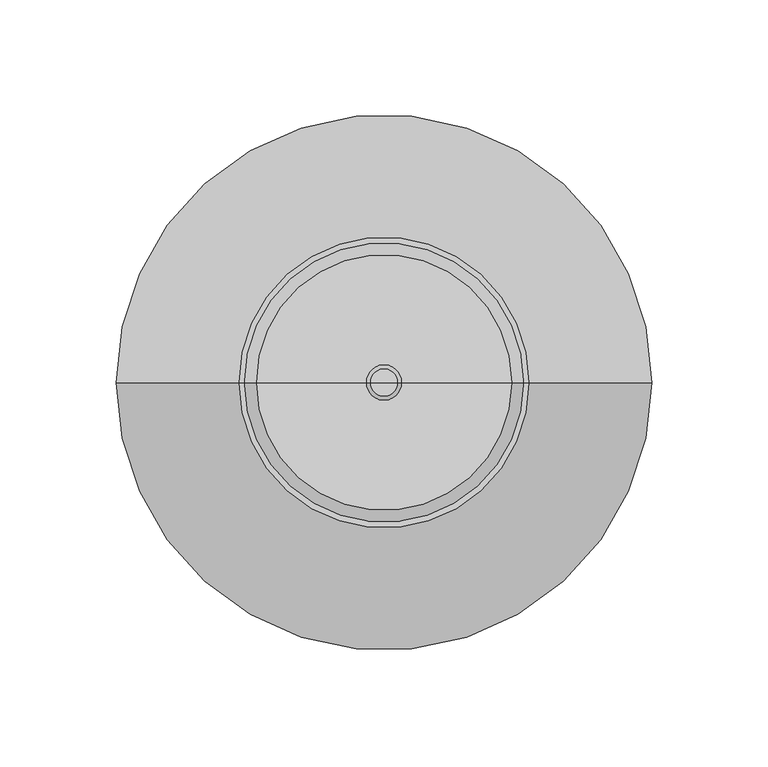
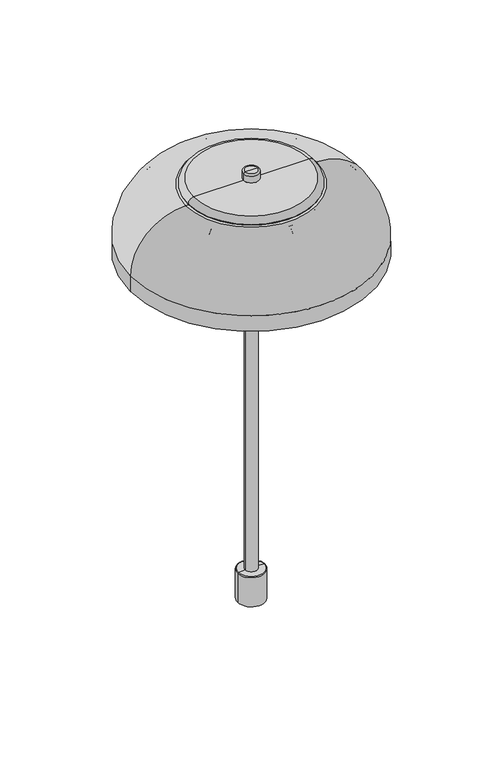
"""IFC4 building model written with IfcOpenShell, lengths in millimetres: light fixture geometry, Nuura - Blossi - Table In-Set : Nuura - Blossi - Table In-Set."""

from ifc_helpers import new_model, si_unit, point, frame, origin, place, context, project, spatial, polyline, circle_curve, ellipse_curve, trimmed, source, transform, mapped, element, save
from ifc_brep_helpers import plane_surface, cylinder_surface, revolved_surface, advanced_brep


def light_fixture_ab9418f2(model_context):
    return source(origin(), model_context, "Body", "AdvancedBrep", [
        advanced_brep(
        [(-63.0, 0.0, 412.0), (63.0, 0.0, 412.0), (0.0, 0.0, 412.0), (-111.0, 0.0, 364.0), (111.0, 0.0, 364.0), (-111.0, 0.0, 348.3), (111.0, 0.0, 348.3), (-115.0, 0.0, 348.3), (115.0, 0.0, 348.3), (-115.0, 0.0, 363.5), (115.0, 0.0, 363.5), (-62.5, 0.0, 416.0), (62.5, 0.0, 416.0), (0.0, 0.0, 416.0)],
        [
            (0, 1, circle_curve(frame((0.0, 0.0, 412.0), z_axis=(0.0, 0.0, -1.0), x_axis=(1.0, 0.0, 0.0)), 63.0)),
            (1, 2),
            (2, 0),
            (1, 0, circle_curve(frame((0.0, 0.0, 412.0), z_axis=(0.0, 0.0, -1.0), x_axis=(1.0, 0.0, 0.0)), 63.0)),
            (3, 4, circle_curve(frame((0.0, 0.0, 364.0), z_axis=(0.0, 0.0, -1.0), x_axis=(1.0, 0.0, 0.0)), 111.0)),
            (4, 1, circle_curve(frame((63.0, 0.0, 364.0), z_axis=(0.0, -1.0, 0.0), x_axis=(1.0, 0.0, 0.0)), 48.0)),
            (0, 3, circle_curve(frame((-63.0, 0.0, 364.0), z_axis=(0.0, -1.0, 0.0), x_axis=(-1.0, 0.0, 0.0)), 48.0)),
            (4, 3, circle_curve(frame((0.0, 0.0, 364.0), z_axis=(0.0, 0.0, -1.0), x_axis=(1.0, 0.0, 0.0)), 111.0)),
            (5, 6, circle_curve(frame((0.0, 0.0, 348.3), z_axis=(0.0, 0.0, -1.0), x_axis=(1.0, 0.0, 0.0)), 111.0)),
            (6, 4),
            (3, 5),
            (6, 5, circle_curve(frame((0.0, 0.0, 348.3), z_axis=(0.0, 0.0, -1.0), x_axis=(1.0, 0.0, 0.0)), 111.0)),
            (7, 8, circle_curve(frame((0.0, 0.0, 348.3), z_axis=(0.0, 0.0, -1.0), x_axis=(1.0, 0.0, 0.0)), 115.0)),
            (8, 6),
            (5, 7),
            (8, 7, circle_curve(frame((0.0, 0.0, 348.3), z_axis=(0.0, 0.0, -1.0), x_axis=(1.0, 0.0, 0.0)), 115.0)),
            (9, 10, circle_curve(frame((0.0, 0.0, 363.5), z_axis=(0.0, 0.0, -1.0), x_axis=(1.0, 0.0, 0.0)), 115.0)),
            (10, 8),
            (7, 9),
            (10, 9, circle_curve(frame((0.0, 0.0, 363.5), z_axis=(0.0, 0.0, -1.0), x_axis=(1.0, 0.0, 0.0)), 115.0)),
            (11, 12, circle_curve(frame((0.0, 0.0, 416.0), z_axis=(0.0, 0.0, -1.0), x_axis=(1.0, 0.0, 0.0)), 62.5)),
            (12, 10, circle_curve(frame((62.5, 0.0, 363.5), z_axis=(0.0, 1.0, 0.0), x_axis=(1.0, 0.0, 0.0)), 52.5)),
            (9, 11, circle_curve(frame((-62.5, 0.0, 363.5), z_axis=(0.0, 1.0, 0.0), x_axis=(-1.0, 0.0, 0.0)), 52.5)),
            (12, 11, circle_curve(frame((0.0, 0.0, 416.0), z_axis=(0.0, 0.0, -1.0), x_axis=(1.0, 0.0, 0.0)), 62.5)),
            (13, 12),
            (11, 13),
        ],
        [
            plane_surface(frame((0.0, 0.0, 412.0), z_axis=(0.0, 0.0, -1.0), x_axis=(1.0, 0.0, 0.0))),
            revolved_surface(trimmed(ellipse_curve(frame((63.0, 0.0, 364.0), z_axis=(0.0, 1.0, 0.0), x_axis=(1.0, 0.0, 0.0)), 48.0, 48.0), [point((63.0, 0.0, 412.0))], [point((111.0, 0.0, 364.0))], True, "CARTESIAN"), (0.0, 0.0, 462.3834276), (0.0, 0.0, 1.0)),
            revolved_surface(polyline([(111.0, 0.0, 364.0), (111.0, 0.0, 348.3)]), (0.0, 0.0, 462.3834276), (0.0, 0.0, 1.0)),
            plane_surface(frame((0.0, 0.0, 348.3), z_axis=(0.0, 0.0, -1.0), x_axis=(1.0, 0.0, 0.0))),
            cylinder_surface(frame((0.0, 0.0, 462.3834276), z_axis=(0.0, 0.0, 1.0), x_axis=(1.0, 0.0, 0.0)), 115.0),
            revolved_surface(trimmed(ellipse_curve(frame((62.5, 0.0, 363.5), z_axis=(0.0, -1.0, 0.0), x_axis=(1.0, 0.0, 0.0)), 52.5, 52.5), [point((115.0, 0.0, 363.5))], [point((62.5, 0.0, 416.0))], True, "CARTESIAN"), (0.0, 0.0, 462.3834276), (0.0, 0.0, 1.0)),
            plane_surface(frame((0.0, 0.0, 416.0), z_axis=(0.0, 0.0, 1.0), x_axis=(1.0, 0.0, 0.0))),
        ],
        [
            (0, [[1, 2, 3]]),
            (0, [[4, -3, -2]]),
            (1, [[5, 6, -1, 7]]),
            (1, [[8, -7, -4, -6]]),
            (2, [[9, 10, -5, 11]]),
            (2, [[12, -11, -8, -10]]),
            (3, [[13, 14, -9, 15]]),
            (3, [[16, -15, -12, -14]]),
            (4, [[17, 18, -13, 19]]),
            (4, [[20, -19, -16, -18]]),
            (5, [[21, 22, -17, 23]]),
            (5, [[24, -23, -20, -22]]),
            (6, [[25, -21, 26]]),
            (6, [[-26, -24, -25]]),
        ],
    ),
        advanced_brep(
        [(-5.85, 0.0, 406.0), (5.85, 0.0, 406.0), (5.85, 0.0, 366.0), (-5.85, 0.0, 366.0), (0.0, 0.0, 406.0), (0.0, 0.0, 366.0)],
        [
            (0, 1, circle_curve(frame((0.0, 0.0, 406.0), z_axis=(0.0, 0.0, -1.0), x_axis=(1.0, 0.0, 0.0)), 5.85)),
            (1, 2),
            (2, 3, circle_curve(frame((0.0, 0.0, 366.0), z_axis=(0.0, 0.0, 1.0), x_axis=(1.0, 0.0, 0.0)), 5.85)),
            (3, 0),
            (1, 0, circle_curve(frame((0.0, 0.0, 406.0), z_axis=(0.0, 0.0, -1.0), x_axis=(1.0, 0.0, 0.0)), 5.85)),
            (3, 2, circle_curve(frame((0.0, 0.0, 366.0), z_axis=(0.0, 0.0, 1.0), x_axis=(1.0, 0.0, 0.0)), 5.85)),
            (4, 1),
            (0, 4),
            (2, 5),
            (5, 3),
        ],
        [
            cylinder_surface(frame((0.0, 0.0, -478.1232635), z_axis=(0.0, 0.0, 1.0), x_axis=(1.0, 0.0, 0.0)), 5.85),
            plane_surface(frame((0.0, 0.0, 406.0), z_axis=(0.0, 0.0, 1.0), x_axis=(1.0, 0.0, 0.0))),
            plane_surface(frame((0.0, 0.0, 366.0), z_axis=(0.0, 0.0, -1.0), x_axis=(1.0, 0.0, 0.0))),
        ],
        [
            (0, [[1, 2, 3, 4]]),
            (0, [[5, -4, 6, -2]]),
            (1, [[7, -1, 8]]),
            (1, [[-8, -5, -7]]),
            (2, [[-3, 9, 10]]),
            (2, [[-6, -10, -9]]),
        ],
    ),
        advanced_brep(
        [(-13.0, 0.0, 0.0), (13.0, 0.0, 0.0), (0.0, 0.0, 0.0), (-13.0, 0.0, 29.0), (13.0, 0.0, 29.0), (-5.85, 0.0, 30.0), (5.85, 0.0, 30.0), (12.0, 0.0, 30.0), (-12.0, 0.0, 30.0), (-5.85, 0.0, 357.3), (5.85, 0.0, 357.3), (-32.0, 0.0, 357.3), (32.0, 0.0, 357.3), (-35.0, 0.0, 360.3), (35.0, 0.0, 360.3), (-35.0, 0.0, 362.3), (35.0, 0.0, 362.3), (-32.0, 0.0, 365.3), (32.0, 0.0, 365.3), (0.0, 0.0, 365.3)],
        [
            (0, 1, circle_curve(frame((0.0, 0.0, 0.0), z_axis=(0.0, 0.0, -1.0), x_axis=(1.0, 0.0, 0.0)), 13.0)),
            (1, 2),
            (2, 0),
            (1, 0, circle_curve(frame((0.0, 0.0, 0.0), z_axis=(0.0, 0.0, -1.0), x_axis=(1.0, 0.0, 0.0)), 13.0)),
            (3, 4, circle_curve(frame((0.0, 0.0, 29.0), z_axis=(0.0, 0.0, -1.0), x_axis=(1.0, 0.0, 0.0)), 13.0)),
            (4, 1),
            (0, 3),
            (4, 3, circle_curve(frame((0.0, 0.0, 29.0), z_axis=(0.0, 0.0, -1.0), x_axis=(1.0, 0.0, 0.0)), 13.0)),
            (5, 6, circle_curve(frame((0.0, 0.0, 30.0), z_axis=(0.0, 0.0, -1.0), x_axis=(1.0, 0.0, 0.0)), 5.85)),
            (6, 7),
            (7, 8, circle_curve(frame((0.0, 0.0, 30.0), z_axis=(0.0, 0.0, 1.0), x_axis=(1.0, 0.0, 0.0)), 12.0)),
            (8, 5),
            (6, 5, circle_curve(frame((0.0, 0.0, 30.0), z_axis=(0.0, 0.0, -1.0), x_axis=(1.0, 0.0, 0.0)), 5.85)),
            (8, 7, circle_curve(frame((0.0, 0.0, 30.0), z_axis=(0.0, 0.0, 1.0), x_axis=(1.0, 0.0, 0.0)), 12.0)),
            (9, 10, circle_curve(frame((0.0, 0.0, 357.3), z_axis=(0.0, 0.0, -1.0), x_axis=(1.0, 0.0, 0.0)), 5.85)),
            (10, 6),
            (5, 9),
            (10, 9, circle_curve(frame((0.0, 0.0, 357.3), z_axis=(0.0, 0.0, -1.0), x_axis=(1.0, 0.0, 0.0)), 5.85)),
            (11, 12, circle_curve(frame((0.0, 0.0, 357.3), z_axis=(0.0, 0.0, -1.0), x_axis=(1.0, 0.0, 0.0)), 32.0)),
            (12, 10),
            (9, 11),
            (12, 11, circle_curve(frame((0.0, 0.0, 357.3), z_axis=(0.0, 0.0, -1.0), x_axis=(1.0, 0.0, 0.0)), 32.0)),
            (13, 14, circle_curve(frame((0.0, 0.0, 360.3), z_axis=(0.0, 0.0, -1.0), x_axis=(1.0, 0.0, 0.0)), 35.0)),
            (14, 12, circle_curve(frame((32.0, 0.0, 360.3), z_axis=(0.0, 1.0, 0.0), x_axis=(1.0, 0.0, 0.0)), 3.0)),
            (11, 13, circle_curve(frame((-32.0, 0.0, 360.3), z_axis=(0.0, 1.0, 0.0), x_axis=(-1.0, 0.0, 0.0)), 3.0)),
            (14, 13, circle_curve(frame((0.0, 0.0, 360.3), z_axis=(0.0, 0.0, -1.0), x_axis=(1.0, 0.0, 0.0)), 35.0)),
            (15, 16, circle_curve(frame((0.0, 0.0, 362.3), z_axis=(0.0, 0.0, -1.0), x_axis=(1.0, 0.0, 0.0)), 35.0)),
            (16, 14),
            (13, 15),
            (16, 15, circle_curve(frame((0.0, 0.0, 362.3), z_axis=(0.0, 0.0, -1.0), x_axis=(1.0, 0.0, 0.0)), 35.0)),
            (17, 18, circle_curve(frame((0.0, 0.0, 365.3), z_axis=(0.0, 0.0, -1.0), x_axis=(1.0, 0.0, 0.0)), 32.0)),
            (18, 16, circle_curve(frame((32.0, 0.0, 362.3), z_axis=(0.0, 1.0, 0.0), x_axis=(1.0, 0.0, 0.0)), 3.0)),
            (15, 17, circle_curve(frame((-32.0, 0.0, 362.3), z_axis=(0.0, 1.0, 0.0), x_axis=(-1.0, 0.0, 0.0)), 3.0)),
            (18, 17, circle_curve(frame((0.0, 0.0, 365.3), z_axis=(0.0, 0.0, -1.0), x_axis=(1.0, 0.0, 0.0)), 32.0)),
            (19, 18),
            (17, 19),
            (7, 4, circle_curve(frame((12.0, 0.0, 29.0), z_axis=(0.0, 1.0, 0.0), x_axis=(1.0, 0.0, 0.0)), 1.0)),
            (3, 8, circle_curve(frame((-12.0, 0.0, 29.0), z_axis=(0.0, 1.0, 0.0), x_axis=(-1.0, 0.0, 0.0)), 1.0)),
        ],
        [
            plane_surface(frame((0.0, 0.0, 0.0), z_axis=(0.0, 0.0, -1.0), x_axis=(1.0, 0.0, 0.0))),
            cylinder_surface(frame((0.0, 0.0, -60.0), z_axis=(0.0, 0.0, 1.0), x_axis=(1.0, 0.0, 0.0)), 13.0),
            plane_surface(frame((0.0, 0.0, 30.0), z_axis=(0.0, 0.0, 1.0), x_axis=(1.0, 0.0, 0.0))),
            cylinder_surface(frame((0.0, 0.0, -60.0), z_axis=(0.0, 0.0, 1.0), x_axis=(1.0, 0.0, 0.0)), 5.85),
            plane_surface(frame((0.0, 0.0, 357.3), z_axis=(0.0, 0.0, -1.0), x_axis=(1.0, 0.0, 0.0))),
            revolved_surface(trimmed(ellipse_curve(frame((32.0, 0.0, 360.3), z_axis=(0.0, -1.0, 0.0), x_axis=(1.0, 0.0, 0.0)), 3.0, 3.0), [point((32.0, 0.0, 357.3))], [point((35.0, 0.0, 360.3))], True, "CARTESIAN"), (0.0, 0.0, -60.0), (0.0, 0.0, 1.0)),
            cylinder_surface(frame((0.0, 0.0, -60.0), z_axis=(0.0, 0.0, 1.0), x_axis=(1.0, 0.0, 0.0)), 35.0),
            revolved_surface(trimmed(ellipse_curve(frame((32.0, 0.0, 362.3), z_axis=(0.0, -1.0, 0.0), x_axis=(1.0, 0.0, 0.0)), 3.0, 3.0), [point((35.0, 0.0, 362.3))], [point((32.0, 0.0, 365.3))], True, "CARTESIAN"), (0.0, 0.0, -60.0), (0.0, 0.0, 1.0)),
            plane_surface(frame((0.0, 0.0, 365.3), z_axis=(0.0, 0.0, 1.0), x_axis=(1.0, 0.0, 0.0))),
            revolved_surface(trimmed(ellipse_curve(frame((12.0, 0.0, 29.0), z_axis=(0.0, -1.0, 0.0), x_axis=(1.0, 0.0, 0.0)), 1.0, 1.0), [point((13.0, 0.0, 29.0))], [point((12.0, 0.0, 30.0))], True, "CARTESIAN"), (0.0, 0.0, -60.0), (0.0, 0.0, 1.0)),
        ],
        [
            (0, [[1, 2, 3]]),
            (0, [[4, -3, -2]]),
            (1, [[5, 6, -1, 7]]),
            (1, [[8, -7, -4, -6]]),
            (2, [[9, 10, 11, 12]]),
            (2, [[13, -12, 14, -10]]),
            (3, [[15, 16, -9, 17]]),
            (3, [[18, -17, -13, -16]]),
            (4, [[19, 20, -15, 21]]),
            (4, [[22, -21, -18, -20]]),
            (5, [[23, 24, -19, 25]]),
            (5, [[26, -25, -22, -24]]),
            (6, [[27, 28, -23, 29]]),
            (6, [[30, -29, -26, -28]]),
            (7, [[31, 32, -27, 33]]),
            (7, [[34, -33, -30, -32]]),
            (8, [[35, -31, 36]]),
            (8, [[-36, -34, -35]]),
            (9, [[-11, 37, -5, 38]]),
            (9, [[-14, -38, -8, -37]]),
        ],
    ),
        advanced_brep(
        [(-60.0, 0.0, 411.0), (60.0, 0.0, 411.0), (55.0, 0.0, 406.0), (-55.0, 0.0, 406.0), (0.0, 0.0, 406.0), (-60.0, 0.0, 412.0), (60.0, 0.0, 412.0), (0.0, 0.0, 412.0)],
        [
            (0, 1, circle_curve(frame((0.0, 0.0, 411.0), z_axis=(0.0, 0.0, -1.0), x_axis=(1.0, 0.0, 0.0)), 60.0)),
            (1, 2, circle_curve(frame((55.0, 0.0, 411.0), z_axis=(0.0, 1.0, 0.0), x_axis=(1.0, 0.0, 0.0)), 5.0)),
            (2, 3, circle_curve(frame((0.0, 0.0, 406.0), z_axis=(0.0, 0.0, 1.0), x_axis=(1.0, 0.0, 0.0)), 55.0)),
            (3, 0, circle_curve(frame((-55.0, 0.0, 411.0), z_axis=(0.0, 1.0, 0.0), x_axis=(-1.0, 0.0, 0.0)), 5.0)),
            (1, 0, circle_curve(frame((0.0, 0.0, 411.0), z_axis=(0.0, 0.0, -1.0), x_axis=(1.0, 0.0, 0.0)), 60.0)),
            (3, 2, circle_curve(frame((0.0, 0.0, 406.0), z_axis=(0.0, 0.0, 1.0), x_axis=(1.0, 0.0, 0.0)), 55.0)),
            (2, 4),
            (4, 3),
            (5, 6, circle_curve(frame((0.0, 0.0, 412.0), z_axis=(0.0, 0.0, -1.0), x_axis=(1.0, 0.0, 0.0)), 60.0)),
            (6, 1),
            (0, 5),
            (6, 5, circle_curve(frame((0.0, 0.0, 412.0), z_axis=(0.0, 0.0, -1.0), x_axis=(1.0, 0.0, 0.0)), 60.0)),
            (7, 6),
            (5, 7),
        ],
        [
            revolved_surface(trimmed(ellipse_curve(frame((55.0, 0.0, 411.0), z_axis=(0.0, -1.0, 0.0), x_axis=(1.0, 0.0, 0.0)), 5.0, 5.0), [point((55.0, 0.0, 406.0))], [point((60.0, 0.0, 411.0))], True, "CARTESIAN"), (0.0, 0.0, -60.0), (0.0, 0.0, 1.0)),
            plane_surface(frame((0.0, 0.0, 406.0), z_axis=(0.0, 0.0, -1.0), x_axis=(1.0, 0.0, 0.0))),
            cylinder_surface(frame((0.0, 0.0, -60.0), z_axis=(0.0, 0.0, 1.0), x_axis=(1.0, 0.0, 0.0)), 60.0),
            plane_surface(frame((0.0, 0.0, 412.0), z_axis=(0.0, 0.0, 1.0), x_axis=(1.0, 0.0, 0.0))),
        ],
        [
            (0, [[1, 2, 3, 4]]),
            (0, [[5, -4, 6, -2]]),
            (1, [[-3, 7, 8]]),
            (1, [[-6, -8, -7]]),
            (2, [[9, 10, -1, 11]]),
            (2, [[12, -11, -5, -10]]),
            (3, [[13, -9, 14]]),
            (3, [[-14, -12, -13]]),
        ],
    ),
        advanced_brep(
        [(-55.0, 0.0, 422.0), (55.0, 0.0, 422.0), (60.0, 0.0, 417.0), (-60.0, 0.0, 417.0), (-7.5, 0.0, 422.0), (7.5, 0.0, 422.0), (-7.5, 0.0, 428.4675236), (7.5, 0.0, 428.4675236), (-5.9675236, 0.0, 430.0), (5.9675236, 0.0, 430.0), (0.0, 0.0, 430.0), (-60.0, 0.0, 416.0), (60.0, 0.0, 416.0), (0.0, 0.0, 416.0)],
        [
            (0, 1, circle_curve(frame((0.0, 0.0, 422.0), z_axis=(0.0, 0.0, -1.0), x_axis=(1.0, 0.0, 0.0)), 55.0)),
            (1, 2, circle_curve(frame((55.0, 0.0, 417.0), z_axis=(0.0, 1.0, 0.0), x_axis=(1.0, 0.0, 0.0)), 5.0)),
            (2, 3, circle_curve(frame((0.0, 0.0, 417.0), z_axis=(0.0, 0.0, 1.0), x_axis=(1.0, 0.0, 0.0)), 60.0)),
            (3, 0, circle_curve(frame((-55.0, 0.0, 417.0), z_axis=(0.0, 1.0, 0.0), x_axis=(-1.0, 0.0, 0.0)), 5.0)),
            (1, 0, circle_curve(frame((0.0, 0.0, 422.0), z_axis=(0.0, 0.0, -1.0), x_axis=(1.0, 0.0, 0.0)), 55.0)),
            (3, 2, circle_curve(frame((0.0, 0.0, 417.0), z_axis=(0.0, 0.0, 1.0), x_axis=(1.0, 0.0, 0.0)), 60.0)),
            (4, 5, circle_curve(frame((0.0, 0.0, 422.0), z_axis=(0.0, 0.0, -1.0), x_axis=(1.0, 0.0, 0.0)), 7.5)),
            (5, 1),
            (0, 4),
            (5, 4, circle_curve(frame((0.0, 0.0, 422.0), z_axis=(0.0, 0.0, -1.0), x_axis=(1.0, 0.0, 0.0)), 7.5)),
            (6, 7, circle_curve(frame((0.0, 0.0, 428.4675236), z_axis=(0.0, 0.0, -1.0), x_axis=(1.0, 0.0, 0.0)), 7.5)),
            (7, 5),
            (4, 6),
            (7, 6, circle_curve(frame((0.0, 0.0, 428.4675236), z_axis=(0.0, 0.0, -1.0), x_axis=(1.0, 0.0, 0.0)), 7.5)),
            (8, 9, circle_curve(frame((0.0, 0.0, 430.0), z_axis=(0.0, 0.0, -1.0), x_axis=(1.0, 0.0, 0.0)), 5.9675236)),
            (9, 7, circle_curve(frame((5.9675236, 0.0, 428.4675236), z_axis=(0.0, 1.0, 0.0), x_axis=(1.0, 0.0, 0.0)), 1.5324764)),
            (6, 8, circle_curve(frame((-5.9675236, 0.0, 428.4675236), z_axis=(0.0, 1.0, 0.0), x_axis=(-1.0, 0.0, 0.0)), 1.5324764)),
            (9, 8, circle_curve(frame((0.0, 0.0, 430.0), z_axis=(0.0, 0.0, -1.0), x_axis=(1.0, 0.0, 0.0)), 5.9675236)),
            (10, 9),
            (8, 10),
            (11, 12, circle_curve(frame((0.0, 0.0, 416.0), z_axis=(0.0, 0.0, -1.0), x_axis=(1.0, 0.0, 0.0)), 60.0)),
            (12, 13),
            (13, 11),
            (12, 11, circle_curve(frame((0.0, 0.0, 416.0), z_axis=(0.0, 0.0, -1.0), x_axis=(1.0, 0.0, 0.0)), 60.0)),
            (2, 12),
            (11, 3),
        ],
        [
            revolved_surface(trimmed(ellipse_curve(frame((55.0, 0.0, 417.0), z_axis=(0.0, -1.0, 0.0), x_axis=(1.0, 0.0, 0.0)), 5.0, 5.0), [point((60.0, 0.0, 417.0))], [point((55.0, 0.0, 422.0))], True, "CARTESIAN"), (0.0, 0.0, -60.0), (0.0, 0.0, 1.0)),
            plane_surface(frame((0.0, 0.0, 422.0), z_axis=(0.0, 0.0, 1.0), x_axis=(1.0, 0.0, 0.0))),
            cylinder_surface(frame((0.0, 0.0, -60.0), z_axis=(0.0, 0.0, 1.0), x_axis=(1.0, 0.0, 0.0)), 7.5),
            revolved_surface(trimmed(ellipse_curve(frame((5.9675236, 0.0, 428.4675236), z_axis=(0.0, -1.0, 0.0), x_axis=(1.0, 0.0, 0.0)), 1.5324764, 1.5324764), [point((7.5, 0.0, 428.4675236))], [point((5.9675236, 0.0, 430.0))], True, "CARTESIAN"), (0.0, 0.0, -60.0), (0.0, 0.0, 1.0)),
            plane_surface(frame((0.0, 0.0, 430.0), z_axis=(0.0, 0.0, 1.0), x_axis=(1.0, 0.0, 0.0))),
            plane_surface(frame((0.0, 0.0, 416.0), z_axis=(0.0, 0.0, -1.0), x_axis=(1.0, 0.0, 0.0))),
            cylinder_surface(frame((0.0, 0.0, -60.0), z_axis=(0.0, 0.0, 1.0), x_axis=(1.0, 0.0, 0.0)), 60.0),
        ],
        [
            (0, [[1, 2, 3, 4]]),
            (0, [[5, -4, 6, -2]]),
            (1, [[7, 8, -1, 9]]),
            (1, [[10, -9, -5, -8]]),
            (2, [[11, 12, -7, 13]]),
            (2, [[14, -13, -10, -12]]),
            (3, [[15, 16, -11, 17]]),
            (3, [[18, -17, -14, -16]]),
            (4, [[19, -15, 20]]),
            (4, [[-20, -18, -19]]),
            (5, [[21, 22, 23]]),
            (5, [[24, -23, -22]]),
            (6, [[-3, 25, -21, 26]]),
            (6, [[-6, -26, -24, -25]]),
        ],
    ),
    ])


if __name__ == "__main__":
    model = new_model("IFC4")
    model_context = context("Model", 3, world=origin())
    ifc_project = project(units=[si_unit("LENGTHUNIT", "METRE", prefix="MILLI")], contexts=[model_context])
    site = spatial("IfcSite", under=ifc_project)
    building = spatial("IfcBuilding", under=site)
    placement = place(None, origin())
    light_fixture_shape = light_fixture_ab9418f2(model_context)
    element("IfcLightFixture", 1, ObjectType="Nuura - Blossi - Table In-Set : Nuura - Blossi - Table In-Set", at=placement, inside=building, context=model_context, shape_type="MappedRepresentation", body=[
        mapped(light_fixture_shape, transform((0.0, 0.0, 0.0), x_axis=(1.0, 0.0, 0.0), y_axis=(0.0, 1.0, 0.0), z_axis=(0.0, 0.0, 1.0))),
    ])
    save(model, "model.ifc")
